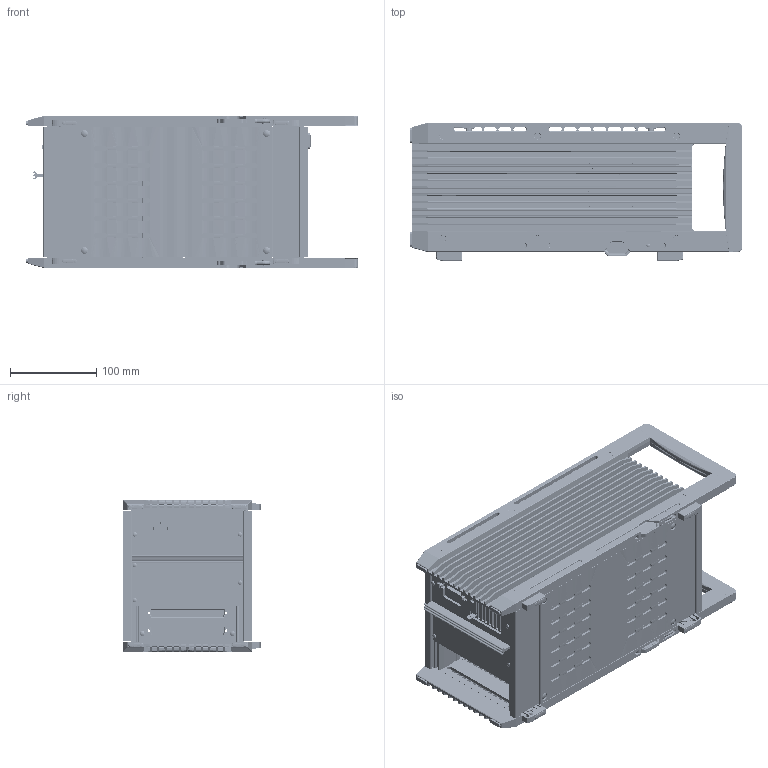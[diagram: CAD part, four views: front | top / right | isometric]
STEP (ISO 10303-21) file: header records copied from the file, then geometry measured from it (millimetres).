
FILE_DESCRIPTION((''),'2;1');
FILE_NAME('1_TG009_E_STEP_1_ASM','2018-10-24T',('jeblick'),(''),'CREO PARAMETRIC BY PTC INC, 2017170','CREO PARAMETRIC BY PTC INC, 2017170','');
FILE_SCHEMA(('CONFIG_CONTROL_DESIGN'));
Products named in the file (4): 1_TG009_E_STEP_SW0001; 3_9241_0324_STEP_SW0001; 1_BL05_STEP_SW0001; 1_TG009_E_STEP_1_ASM
Assembly tree (3 placements, depth 2):
  1_TG009_E_STEP_1_ASM
    1_TG009_E_STEP_SW0001
    3_9241_0324_STEP_SW0001
    1_BL05_STEP_SW0001
Bounding box: 385.76 x 160.5 x 176.62 mm (x, y, z)
Volume: 3287800.1 mm3; surface area: 1068703.8 mm2
Topology: 3 solids, 4 shells, 6134 faces, 17838 edges, 11447 vertices
Faces by surface type: bspline 6134
Entity records: 350060 total; most frequent: CARTESIAN_POINT 163879, ORIENTED_EDGE 35556, DIRECTION 21663, EDGE_CURVE 17778, VECTOR 11759, LINE 11759, VERTEX_POINT 11447, EDGE_LOOP 6839
